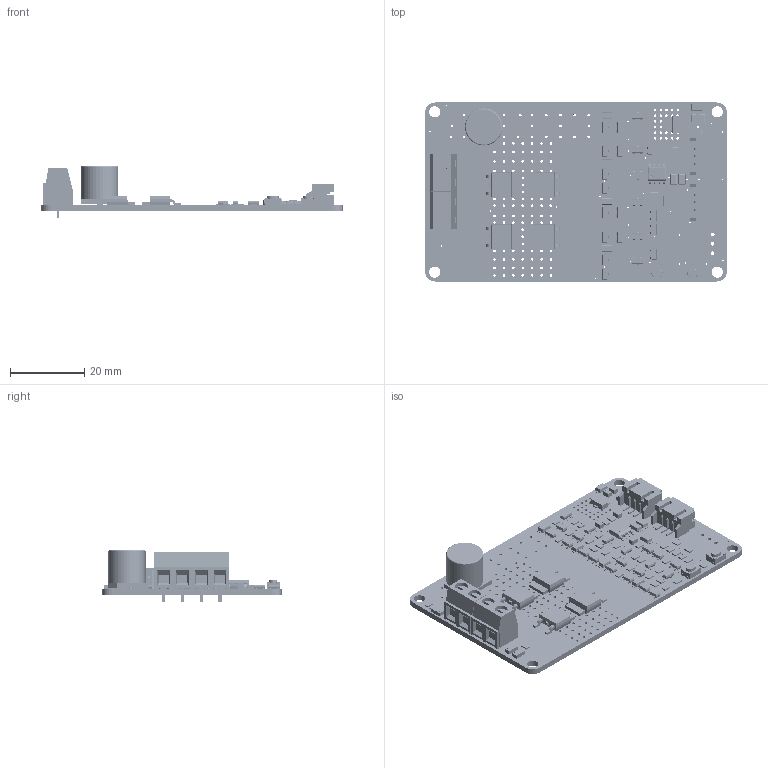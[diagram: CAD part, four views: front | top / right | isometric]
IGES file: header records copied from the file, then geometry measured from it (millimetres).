
Start section: SolidWorks IGES file using analytic representation for surfaces
Global section: file name: D:\Cytron\Technical\MD10-POT - 10A Potentiometer Control DC Motor Driver\md10-pot\Mechanical Design\MD10-POT CAD and Jig\MD10-POT PCBA.IGS; native system: SolidWorks 2015; preprocessor: SolidWorks 2015; author: DIANMIAO; date: 181214.165615; units: millimetre
Bounding box: 81.28 x 48.26 x 14 mm (x, y, z)
Surface area: 13611.3 mm2 (no closed solid volume)
Topology: 0 solids, 0 shells, 4199 faces, 33873 edges, 33741 vertices
Faces by surface type: bspline 2869, revolution 1330
